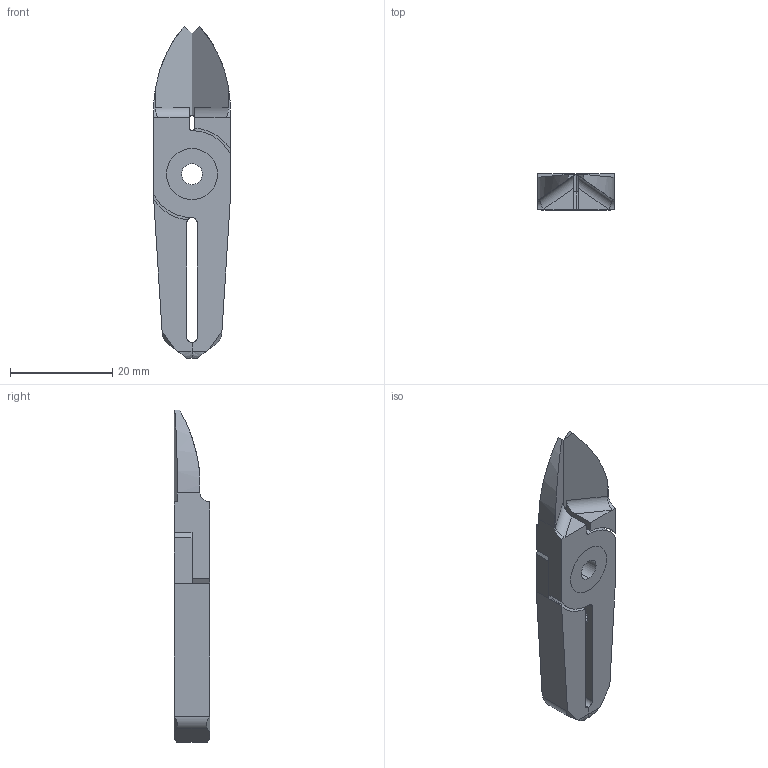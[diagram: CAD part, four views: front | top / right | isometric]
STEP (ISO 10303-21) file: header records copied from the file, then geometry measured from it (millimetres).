
FILE_DESCRIPTION (( 'STEP AP214' ), '1' );
FILE_NAME ('NT05AJV.STEP', '2019-11-29T00:56:08', ( '微软用户' ), ( '微软中国' ), 'SwSTEP 2.0', 'SolidWorks 2016', '' );
FILE_SCHEMA (( 'AUTOMOTIVE_DESIGN' ));
Length unit declared in the file: millimetre
Products named in the file (4): NT05AJV; BR1; BR2; BS
Assembly tree (3 placements, depth 2):
  NT05AJV
    BS
    BR1
    BR2
Bounding box: 15 x 7 x 65 mm (x, y, z)
Volume: 4226.6 mm3; surface area: 4021.5 mm2
Topology: 3 solids, 3 shells, 98 faces, 254 edges, 160 vertices
Faces by surface type: plane 42, cylinder 30, cone 16, bspline 10
Entity records: 3153 total; most frequent: CARTESIAN_POINT 709, ORIENTED_EDGE 500, DIRECTION 462, EDGE_CURVE 250, VERTEX_POINT 160, AXIS2_PLACEMENT_3D 155, LINE 152, VECTOR 152
